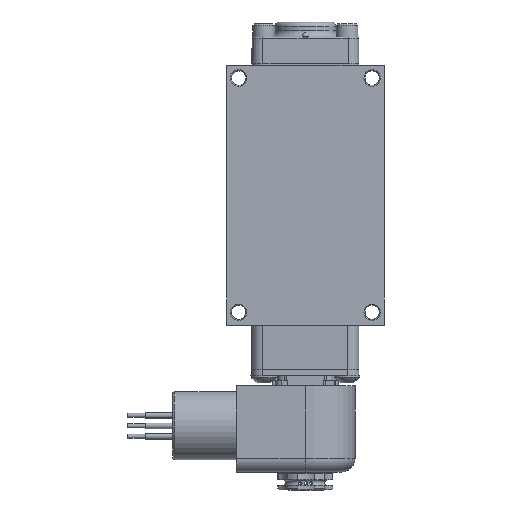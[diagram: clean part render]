
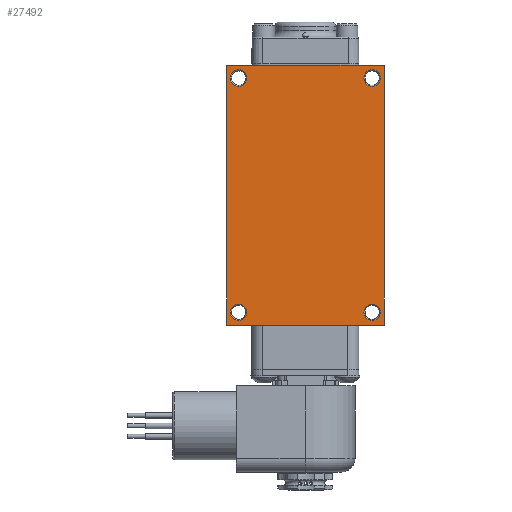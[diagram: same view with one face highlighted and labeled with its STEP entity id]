
A CAD part, front view. The second image highlights one B-rep face of the part: STEP entity #27492.
In plain terms, the highlighted planar face has unit normal (0, -1, 0).
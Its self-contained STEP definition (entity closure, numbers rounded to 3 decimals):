
#1196=FACE_BOUND('',#4835,.T.);
#1197=FACE_BOUND('',#4836,.T.);
#1198=FACE_BOUND('',#4837,.T.);
#1199=FACE_BOUND('',#4838,.T.);
#1744=PLANE('',#30247);
#3118=FACE_OUTER_BOUND('',#4834,.T.);
#4834=EDGE_LOOP('',(#22434,#22435,#22436,#22437));
#4835=EDGE_LOOP('',(#22438));
#4836=EDGE_LOOP('',(#22439));
#4837=EDGE_LOOP('',(#22440));
#4838=EDGE_LOOP('',(#22441));
#6445=CIRCLE('',#30236,0.296);
#6447=CIRCLE('',#30240,0.296);
#6449=CIRCLE('',#30244,0.296);
#6451=CIRCLE('',#30248,0.296);
#8005=LINE('',#48249,#9946);
#8006=LINE('',#48251,#9947);
#8007=LINE('',#48253,#9948);
#8008=LINE('',#48254,#9949);
#9946=VECTOR('',#36789,1.);
#9947=VECTOR('',#36790,1.);
#9948=VECTOR('',#36791,1.);
#9949=VECTOR('',#36792,1.);
#12337=VERTEX_POINT('',#48223);
#12339=VERTEX_POINT('',#48231);
#12341=VERTEX_POINT('',#48239);
#12343=VERTEX_POINT('',#48247);
#12344=VERTEX_POINT('',#48248);
#12345=VERTEX_POINT('',#48250);
#12346=VERTEX_POINT('',#48252);
#12347=VERTEX_POINT('',#48255);
#15820=EDGE_CURVE('',#12337,#12337,#6445,.T.);
#15824=EDGE_CURVE('',#12339,#12339,#6447,.T.);
#15828=EDGE_CURVE('',#12341,#12341,#6449,.T.);
#15832=EDGE_CURVE('',#12343,#12344,#8005,.T.);
#15833=EDGE_CURVE('',#12345,#12343,#8006,.T.);
#15834=EDGE_CURVE('',#12346,#12345,#8007,.T.);
#15835=EDGE_CURVE('',#12344,#12346,#8008,.T.);
#15836=EDGE_CURVE('',#12347,#12347,#6451,.T.);
#22434=ORIENTED_EDGE('',*,*,#15832,.F.);
#22435=ORIENTED_EDGE('',*,*,#15833,.F.);
#22436=ORIENTED_EDGE('',*,*,#15834,.F.);
#22437=ORIENTED_EDGE('',*,*,#15835,.F.);
#22438=ORIENTED_EDGE('',*,*,#15828,.F.);
#22439=ORIENTED_EDGE('',*,*,#15820,.F.);
#22440=ORIENTED_EDGE('',*,*,#15824,.F.);
#22441=ORIENTED_EDGE('',*,*,#15836,.F.);
#27492=ADVANCED_FACE('',(#3118,#1196,#1197,#1198,#1199),#1744,.F.);
#30236=AXIS2_PLACEMENT_3D('',#48224,#36759,#36760);
#30240=AXIS2_PLACEMENT_3D('',#48232,#36769,#36770);
#30244=AXIS2_PLACEMENT_3D('',#48240,#36779,#36780);
#30247=AXIS2_PLACEMENT_3D('',#48246,#36787,#36788);
#30248=AXIS2_PLACEMENT_3D('',#48256,#36793,#36794);
#36759=DIRECTION('center_axis',(0.,-1.,0.));
#36760=DIRECTION('ref_axis',(1.,0.,0.));
#36769=DIRECTION('center_axis',(0.,-1.,0.));
#36770=DIRECTION('ref_axis',(1.,0.,0.));
#36779=DIRECTION('center_axis',(0.,-1.,0.));
#36780=DIRECTION('ref_axis',(1.,0.,0.));
#36787=DIRECTION('center_axis',(0.,1.,0.));
#36788=DIRECTION('ref_axis',(0.,0.,1.));
#36789=DIRECTION('',(0.,0.,-1.));
#36790=DIRECTION('',(1.,0.,0.));
#36791=DIRECTION('',(0.,0.,1.));
#36792=DIRECTION('',(-1.,0.,0.));
#36793=DIRECTION('center_axis',(0.,-1.,0.));
#36794=DIRECTION('ref_axis',(1.,0.,0.));
#48223=CARTESIAN_POINT('',(2.125,-1.636,-4.247));
#48224=CARTESIAN_POINT('Origin',(2.421,-1.636,-4.247));
#48231=CARTESIAN_POINT('',(-2.717,-1.636,-4.247));
#48232=CARTESIAN_POINT('Origin',(-2.421,-1.636,-4.247));
#48239=CARTESIAN_POINT('',(-2.717,-1.636,4.247));
#48240=CARTESIAN_POINT('Origin',(-2.421,-1.636,4.247));
#48246=CARTESIAN_POINT('Origin',(0.,-1.636,0.));
#48247=CARTESIAN_POINT('',(2.858,-1.636,4.71));
#48248=CARTESIAN_POINT('',(2.858,-1.636,-4.71));
#48249=CARTESIAN_POINT('',(2.858,-1.636,-4.71));
#48250=CARTESIAN_POINT('',(-2.858,-1.636,4.71));
#48251=CARTESIAN_POINT('',(2.858,-1.636,4.71));
#48252=CARTESIAN_POINT('',(-2.858,-1.636,-4.71));
#48253=CARTESIAN_POINT('',(-2.858,-1.636,4.71));
#48254=CARTESIAN_POINT('',(-2.858,-1.636,-4.71));
#48255=CARTESIAN_POINT('',(2.125,-1.636,4.247));
#48256=CARTESIAN_POINT('Origin',(2.421,-1.636,4.247));
